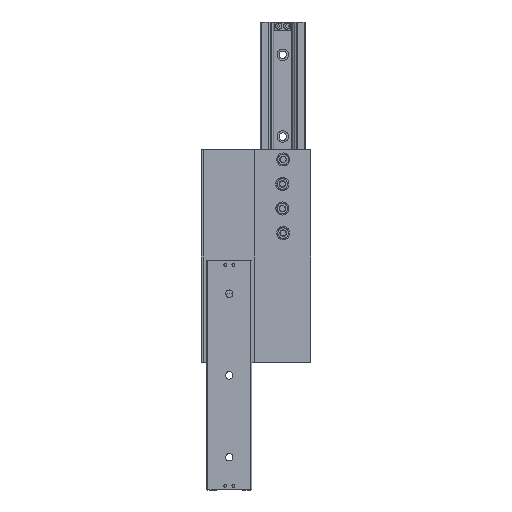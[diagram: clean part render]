
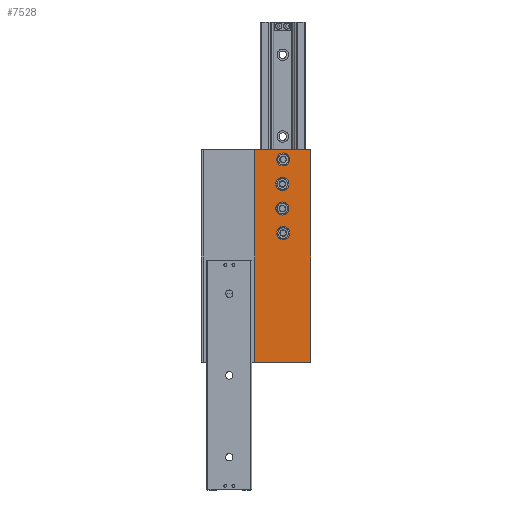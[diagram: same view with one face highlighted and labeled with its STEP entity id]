
A CAD part, left-side view. The second image highlights one B-rep face of the part: STEP entity #7528.
In plain terms, the highlighted planar face has unit normal (-1, 0, 0).
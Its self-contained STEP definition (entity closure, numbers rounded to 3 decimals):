
#120 = CARTESIAN_POINT ( 'NONE',  ( 0., 33.8, 248. ) ) ;
#136 = CARTESIAN_POINT ( 'NONE',  ( 0., 34.8, 196. ) ) ;
#322 = CARTESIAN_POINT ( 'NONE',  ( 0., 33.8, 166. ) ) ;
#362 = FACE_BOUND ( 'NONE', #7650, .T. ) ;
#374 = VERTEX_POINT ( 'NONE', #2552 ) ;
#476 = DIRECTION ( 'NONE',  ( 0., 1., 0. ) ) ;
#515 = DIRECTION ( 'NONE',  ( 0., 0., 1. ) ) ;
#541 = ORIENTED_EDGE ( 'NONE', *, *, #3844, .F. ) ;
#838 = ORIENTED_EDGE ( 'NONE', *, *, #6906, .T. ) ;
#1042 = FACE_BOUND ( 'NONE', #7029, .T. ) ;
#1950 = FACE_BOUND ( 'NONE', #8576, .T. ) ;
#2167 = ORIENTED_EDGE ( 'NONE', *, *, #5650, .F. ) ;
#2228 = ORIENTED_EDGE ( 'NONE', *, *, #2373, .F. ) ;
#2273 = AXIS2_PLACEMENT_3D ( 'NONE', #120, #3654, #7513 ) ;
#2286 = DIRECTION ( 'NONE',  ( -1., 0., 0. ) ) ;
#2330 = ORIENTED_EDGE ( 'NONE', *, *, #2953, .F. ) ;
#2352 = DIRECTION ( 'NONE',  ( 0., 0., -1. ) ) ;
#2373 = EDGE_CURVE ( 'NONE', #3003, #8306, #9262, .T. ) ;
#2446 = LINE ( 'NONE', #5407, #6819 ) ;
#2503 = AXIS2_PLACEMENT_3D ( 'NONE', #4159, #7099, #9259 ) ;
#2531 = VERTEX_POINT ( 'NONE', #3135 ) ;
#2552 = CARTESIAN_POINT ( 'NONE',  ( 0., 33.8, 256. ) ) ;
#2697 = EDGE_LOOP ( 'NONE', ( #2228, #2330, #838, #3232 ) ) ;
#2754 = EDGE_CURVE ( 'NONE', #2894, #2894, #6502, .T. ) ;
#2894 = VERTEX_POINT ( 'NONE', #322 ) ;
#2953 = EDGE_CURVE ( 'NONE', #9444, #3003, #2446, .T. ) ;
#3003 = VERTEX_POINT ( 'NONE', #4500 ) ;
#3135 = CARTESIAN_POINT ( 'NONE',  ( 0., 68.6, 260. ) ) ;
#3161 = DIRECTION ( 'NONE',  ( 0., 0., 1. ) ) ;
#3232 = ORIENTED_EDGE ( 'NONE', *, *, #4023, .T. ) ;
#3272 = DIRECTION ( 'NONE',  ( 0., 0., 1. ) ) ;
#3301 = EDGE_CURVE ( 'NONE', #8245, #8245, #4814, .T. ) ;
#3312 = FACE_OUTER_BOUND ( 'NONE', #2697, .T. ) ;
#3411 = AXIS2_PLACEMENT_3D ( 'NONE', #8269, #2286, #3161 ) ;
#3654 = DIRECTION ( 'NONE',  ( -1., 0., 0. ) ) ;
#3764 = CARTESIAN_POINT ( 'NONE',  ( 0., 68.6, 260. ) ) ;
#3844 = EDGE_CURVE ( 'NONE', #5171, #5171, #6674, .T. ) ;
#3996 = EDGE_LOOP ( 'NONE', ( #2167 ) ) ;
#4000 = CARTESIAN_POINT ( 'NONE',  ( 0., 0., 260. ) ) ;
#4023 = EDGE_CURVE ( 'NONE', #2531, #8306, #4507, .T. ) ;
#4159 = CARTESIAN_POINT ( 'NONE',  ( 0., 34.8, 188. ) ) ;
#4205 = DIRECTION ( 'NONE',  ( -1., 0., 0. ) ) ;
#4463 = CARTESIAN_POINT ( 'NONE',  ( 0., 34.8, 226. ) ) ;
#4472 = AXIS2_PLACEMENT_3D ( 'NONE', #4000, #7796, #3272 ) ;
#4500 = CARTESIAN_POINT ( 'NONE',  ( 0., 0., 0. ) ) ;
#4507 = LINE ( 'NONE', #3764, #9134 ) ;
#4542 = ORIENTED_EDGE ( 'NONE', *, *, #2754, .F. ) ;
#4667 = CARTESIAN_POINT ( 'NONE',  ( 0., 0., 260. ) ) ;
#4814 = CIRCLE ( 'NONE', #3411, 8. ) ;
#5110 = VECTOR ( 'NONE', #476, 1000. ) ;
#5171 = VERTEX_POINT ( 'NONE', #136 ) ;
#5407 = CARTESIAN_POINT ( 'NONE',  ( 0., 0., 260. ) ) ;
#5501 = CARTESIAN_POINT ( 'NONE',  ( 0., 33.8, 158. ) ) ;
#5650 = EDGE_CURVE ( 'NONE', #374, #374, #6449, .T. ) ;
#5700 = CARTESIAN_POINT ( 'NONE',  ( 0., 68.6, 0. ) ) ;
#6228 = FACE_BOUND ( 'NONE', #3996, .T. ) ;
#6449 = CIRCLE ( 'NONE', #2273, 8. ) ;
#6502 = CIRCLE ( 'NONE', #7429, 8. ) ;
#6674 = CIRCLE ( 'NONE', #2503, 8. ) ;
#6762 = CARTESIAN_POINT ( 'NONE',  ( 0., 0., 260. ) ) ;
#6819 = VECTOR ( 'NONE', #2352, 1000. ) ;
#6906 = EDGE_CURVE ( 'NONE', #9444, #2531, #8926, .T. ) ;
#7029 = EDGE_LOOP ( 'NONE', ( #541 ) ) ;
#7099 = DIRECTION ( 'NONE',  ( -1., 0., 0. ) ) ;
#7429 = AXIS2_PLACEMENT_3D ( 'NONE', #5501, #4205, #515 ) ;
#7513 = DIRECTION ( 'NONE',  ( 0., 0., 1. ) ) ;
#7528 = ADVANCED_FACE ( 'NONE', ( #362, #1042, #1950, #6228, #3312 ), #9107, .T. ) ;
#7575 = DIRECTION ( 'NONE',  ( 0., 1., 0. ) ) ;
#7606 = ORIENTED_EDGE ( 'NONE', *, *, #3301, .F. ) ;
#7650 = EDGE_LOOP ( 'NONE', ( #4542 ) ) ;
#7796 = DIRECTION ( 'NONE',  ( -1., 0., 0. ) ) ;
#8245 = VERTEX_POINT ( 'NONE', #4463 ) ;
#8269 = CARTESIAN_POINT ( 'NONE',  ( 0., 34.8, 218. ) ) ;
#8306 = VERTEX_POINT ( 'NONE', #5700 ) ;
#8576 = EDGE_LOOP ( 'NONE', ( #7606 ) ) ;
#8637 = CARTESIAN_POINT ( 'NONE',  ( 0., 0., 0. ) ) ;
#8926 = LINE ( 'NONE', #6762, #9059 ) ;
#9059 = VECTOR ( 'NONE', #7575, 1000. ) ;
#9107 = PLANE ( 'NONE',  #4472 ) ;
#9134 = VECTOR ( 'NONE', #9497, 1000. ) ;
#9259 = DIRECTION ( 'NONE',  ( 0., 0., 1. ) ) ;
#9262 = LINE ( 'NONE', #8637, #5110 ) ;
#9444 = VERTEX_POINT ( 'NONE', #4667 ) ;
#9497 = DIRECTION ( 'NONE',  ( 0., 0., -1. ) ) ;
